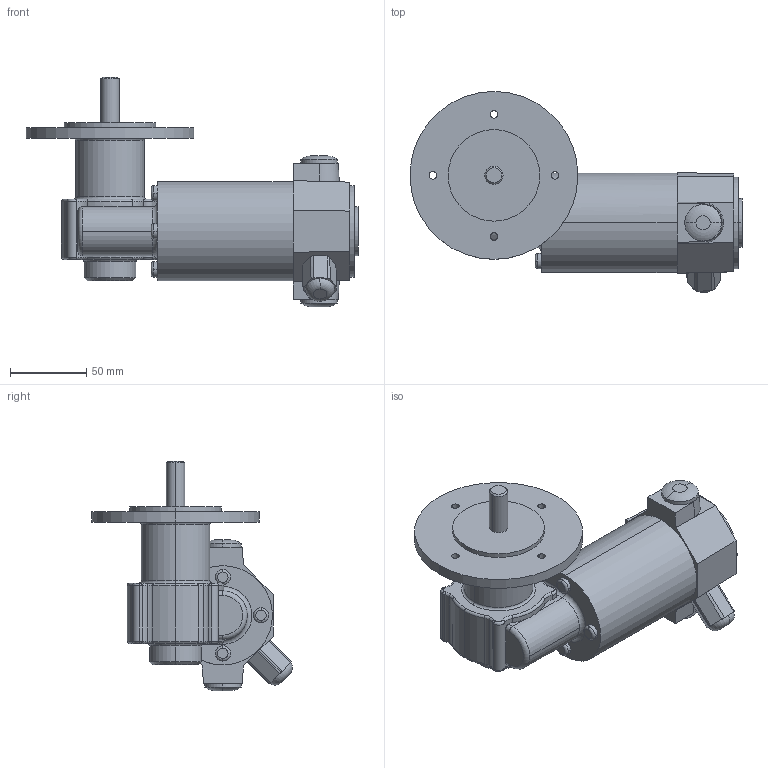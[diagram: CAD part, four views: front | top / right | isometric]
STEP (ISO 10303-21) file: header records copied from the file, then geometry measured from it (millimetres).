
FILE_DESCRIPTION(('OneSpaceDesigner STEP Export'),'2;1');
FILE_NAME('EPG02_GF12.stp','2008-07-02T13:11:40',(''),(''),'OneSpace Designer STEP processor (Jan. 2003) for AP214(CD)(Solid Model)','OneSpace Designer 12.01D 09-Jul-2004 (C) CoCreate Software GmbH','');
FILE_SCHEMA(('AUTOMOTIVE_DESIGN_CC2 {1 2 10303 214 -1 1 5 1}'));
Length unit declared in the file: millimetre
Products named in the file (2): EPG02_GF12
Assembly tree (1 placements, depth 2):
  EPG02_GF12
    EPG02_GF12
Bounding box: 217.5 x 131.58 x 150.5 mm (x, y, z)
Volume: 778748.2 mm3; surface area: 80198.7 mm2
Topology: 1 solids, 1 shells, 209 faces, 503 edges, 311 vertices
Faces by surface type: cylinder 83, torus 72, plane 48, cone 4, bspline 2
Entity records: 7649 total; most frequent: CARTESIAN_POINT 3170, ORIENTED_EDGE 1006, DIRECTION 837, EDGE_CURVE 503, AXIS2_PLACEMENT_3D 345, VERTEX_POINT 311, EDGE_LOOP 232, CIRCLE 210
